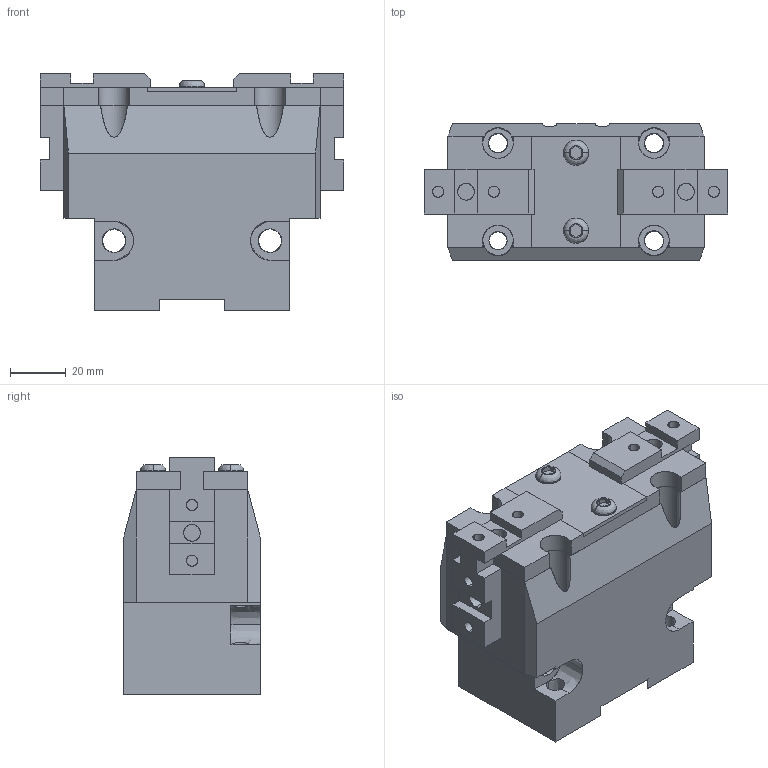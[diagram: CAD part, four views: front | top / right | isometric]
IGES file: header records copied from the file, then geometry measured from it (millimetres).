
Global section: file name: C:\Documents and Settings\Administrateur\Mes documents\OPE-95-SX-OPEN.igs; native system: AutoCAD-16.0s (LMS Tech) (Microsoft Windows NT Version 5.1 (x86)); preprocessor: Autodesk IGES Translator Mechanical Desktop.R7.0.43.0 (Mar 18 2003) from Autodesk, Inc.; date: 20050629.074312; units: millimetre
Bounding box: 109 x 49 x 85 mm (x, y, z)
Surface area: 68019.4 mm2 (no closed solid volume)
Topology: 0 solids, 0 shells, 265 faces, 2511 edges, 2609 vertices
Faces by surface type: bspline 265
